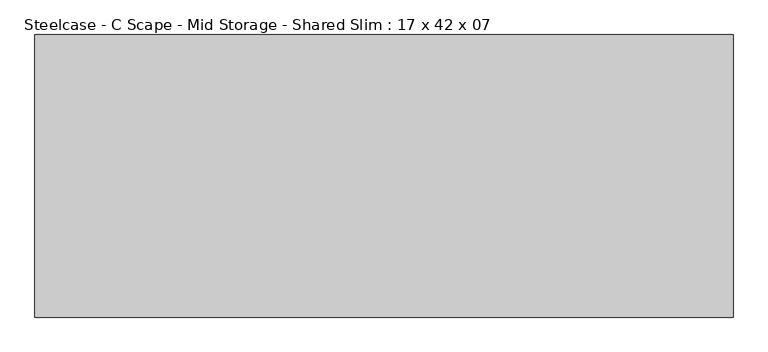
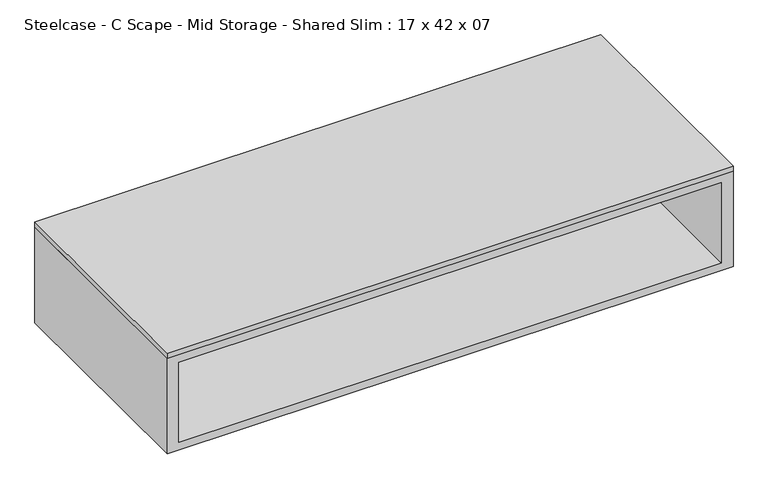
"""IFC4 building model written with IfcOpenShell, lengths in millimetres: furniture geometry, Steelcase - C Scape - Mid Storage - Shared Slim : 17 x 42 x 07."""

from ifc_helpers import new_model, si_unit, frame, origin, place, context, project, spatial, polyline, outline, extrude, source, transform, mapped, element, save


def steelcase_c_scape_mid_storage_shared_slim_17_x_42_x_07_a3ea2620(model_context):
    return source(origin(), model_context, "Body", "SweptSolid", [
        extrude(outline(polyline([(1066.8, 215.9), (1066.8, -215.9), (0.0, -215.9), (0.0, 215.9), (1066.8, 215.9)])), frame((0.0, 0.0, 1028.7), z_axis=(0.0, 0.0, 1.0), x_axis=(1.0, 0.0, 0.0)), (0.0, 0.0, 1.0), 10.16),
        extrude(outline(polyline([(1044.702, 3.1751841), (1044.702, -3.1744283), (21.9711633, -3.1744283), (21.9711633, 3.1751841), (1044.702, 3.1751841)])), frame((0.0, 0.0, 853.4399855), z_axis=(0.0, 0.0, 1.0), x_axis=(1.0, 0.0, 0.0)), (0.0, 0.0, 1.0), 160.0200145),
        extrude(outline(polyline([(1028.7, 1066.8), (1028.7, 0.0), (838.2, 0.0), (838.2, 1066.8), (1028.7, 1066.8)]), holes=[polyline([(1013.46, 1044.702), (853.4399855, 1044.702), (853.4399855, 21.9711633), (1013.46, 21.9711633), (1013.46, 1044.702)])]), frame((0.0, -215.9, 0.0), z_axis=(0.0, 1.0, 0.0), x_axis=(0.0, 0.0, 1.0)), (0.0, 0.0, 1.0), 431.8),
    ])


if __name__ == "__main__":
    model = new_model("IFC4")
    model_context = context("Model", 3, world=origin())
    ifc_project = project(units=[si_unit("LENGTHUNIT", "METRE", prefix="MILLI")], contexts=[model_context])
    site = spatial("IfcSite", under=ifc_project)
    building = spatial("IfcBuilding", under=site)
    placement = place(None, origin())
    steelcase_c_scape_mid_storage_shared_slim_17_x_42_x_07_shape = steelcase_c_scape_mid_storage_shared_slim_17_x_42_x_07_a3ea2620(model_context)
    element("IfcFurniture", 1, ObjectType="Steelcase - C Scape - Mid Storage - Shared Slim : 17 x 42 x 07", at=placement, inside=building, context=model_context, shape_type="MappedRepresentation", body=[
        mapped(steelcase_c_scape_mid_storage_shared_slim_17_x_42_x_07_shape, transform((0.0, 0.0, 0.0), x_axis=(1.0, 0.0, 0.0), y_axis=(0.0, 1.0, 0.0), z_axis=(0.0, 0.0, 1.0))),
    ])
    save(model, "model.ifc")
